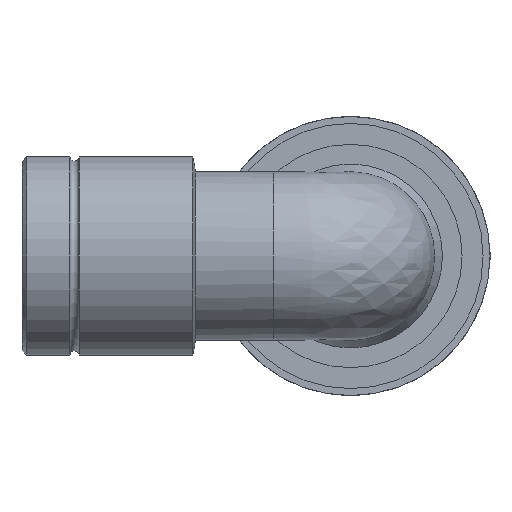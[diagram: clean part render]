
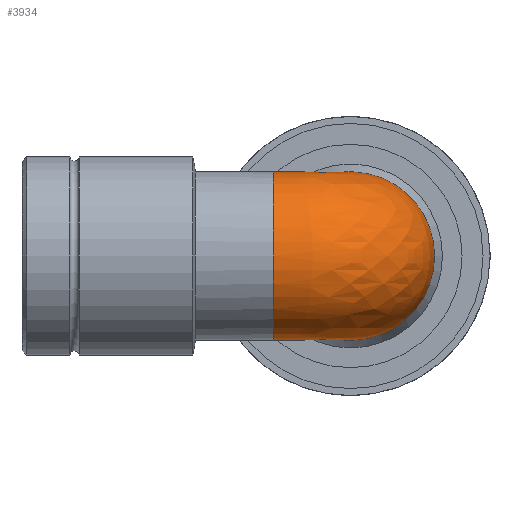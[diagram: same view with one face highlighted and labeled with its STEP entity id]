
A CAD part, left-side view. The second image highlights one B-rep face of the part: STEP entity #3934.
In plain terms, the highlighted free-form (B-spline) face has degree [2, 2] with [9, 3] control points.
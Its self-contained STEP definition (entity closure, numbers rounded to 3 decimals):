
#887=(
BOUNDED_SURFACE()
B_SPLINE_SURFACE(2,2,((#5979,#5980,#5981),(#5982,#5983,#5984),(#5985,#5986,
#5987),(#5988,#5989,#5990),(#5991,#5992,#5993),(#5994,#5995,#5996),(#5997,
#5998,#5999),(#6000,#6001,#6002),(#6003,#6004,#6005)),.UNSPECIFIED.,.F.,
 .F.,.F.)
B_SPLINE_SURFACE_WITH_KNOTS((3,2,2,2,3),(3,3),(-2.732,-1.366,
0.,1.366,2.732),(-3.142,-1.571),
 .UNSPECIFIED.)
GEOMETRIC_REPRESENTATION_ITEM()
RATIONAL_B_SPLINE_SURFACE(((1.,0.707,1.),(0.776,
0.548,0.776),(1.,0.707,1.),(0.776,
0.548,0.776),(1.,0.707,1.),(0.776,
0.548,0.776),(1.,0.707,1.),(0.776,
0.548,0.776),(1.,0.707,1.)))
REPRESENTATION_ITEM('')
SURFACE()
);
#915=FACE_OUTER_BOUND('',#1191,.T.);
#1191=EDGE_LOOP('',(#2696,#2697));
#1492=CIRCLE('',#4213,10.247);
#1493=CIRCLE('',#4214,10.247);
#1725=VERTEX_POINT('',#6006);
#1726=VERTEX_POINT('',#6007);
#2086=EDGE_CURVE('',#1725,#1726,#1492,.T.);
#2087=EDGE_CURVE('',#1726,#1725,#1493,.T.);
#2696=ORIENTED_EDGE('',*,*,#2086,.F.);
#2697=ORIENTED_EDGE('',*,*,#2087,.F.);
#3934=ADVANCED_FACE('',(#915),#887,.F.);
#4213=AXIS2_PLACEMENT_3D('',#6008,#4725,#4726);
#4214=AXIS2_PLACEMENT_3D('',#6009,#4727,#4728);
#4725=DIRECTION('center_axis',(0.,1.,0.));
#4726=DIRECTION('ref_axis',(1.,0.,0.));
#4727=DIRECTION('center_axis',(1.,0.,0.));
#4728=DIRECTION('ref_axis',(0.,0.,-1.));
#5979=CARTESIAN_POINT('Ctrl Pts',(9.4,9.4,-4.079));
#5980=CARTESIAN_POINT('Ctrl Pts',(9.4,9.4,-4.079));
#5981=CARTESIAN_POINT('Ctrl Pts',(9.4,9.4,-4.079));
#5982=CARTESIAN_POINT('Ctrl Pts',(6.081,9.4,-11.728));
#5983=CARTESIAN_POINT('Ctrl Pts',(6.081,6.081,-11.728));
#5984=CARTESIAN_POINT('Ctrl Pts',(9.4,6.081,-11.728));
#5985=CARTESIAN_POINT('Ctrl Pts',(-2.083,9.4,-10.033));
#5986=CARTESIAN_POINT('Ctrl Pts',(-2.083,-2.083,-10.033));
#5987=CARTESIAN_POINT('Ctrl Pts',(9.4,-2.083,-10.033));
#5988=CARTESIAN_POINT('Ctrl Pts',(-10.247,9.4,-8.338));
#5989=CARTESIAN_POINT('Ctrl Pts',(-10.247,-10.247,-8.338));
#5990=CARTESIAN_POINT('Ctrl Pts',(9.4,-10.247,-8.338));
#5991=CARTESIAN_POINT('Ctrl Pts',(-10.247,9.4,0.));
#5992=CARTESIAN_POINT('Ctrl Pts',(-10.247,-10.247,0.));
#5993=CARTESIAN_POINT('Ctrl Pts',(9.4,-10.247,0.));
#5994=CARTESIAN_POINT('Ctrl Pts',(-10.247,9.4,8.338));
#5995=CARTESIAN_POINT('Ctrl Pts',(-10.247,-10.247,8.338));
#5996=CARTESIAN_POINT('Ctrl Pts',(9.4,-10.247,8.338));
#5997=CARTESIAN_POINT('Ctrl Pts',(-2.083,9.4,10.033));
#5998=CARTESIAN_POINT('Ctrl Pts',(-2.083,-2.083,10.033));
#5999=CARTESIAN_POINT('Ctrl Pts',(9.4,-2.083,10.033));
#6000=CARTESIAN_POINT('Ctrl Pts',(6.081,9.4,11.728));
#6001=CARTESIAN_POINT('Ctrl Pts',(6.081,6.081,11.728));
#6002=CARTESIAN_POINT('Ctrl Pts',(9.4,6.081,11.728));
#6003=CARTESIAN_POINT('Ctrl Pts',(9.4,9.4,4.079));
#6004=CARTESIAN_POINT('Ctrl Pts',(9.4,9.4,4.079));
#6005=CARTESIAN_POINT('Ctrl Pts',(9.4,9.4,4.079));
#6006=CARTESIAN_POINT('',(9.4,9.4,-4.079));
#6007=CARTESIAN_POINT('',(9.4,9.4,4.079));
#6008=CARTESIAN_POINT('Origin',(0.,9.4,0.));
#6009=CARTESIAN_POINT('Origin',(9.4,0.,0.));
